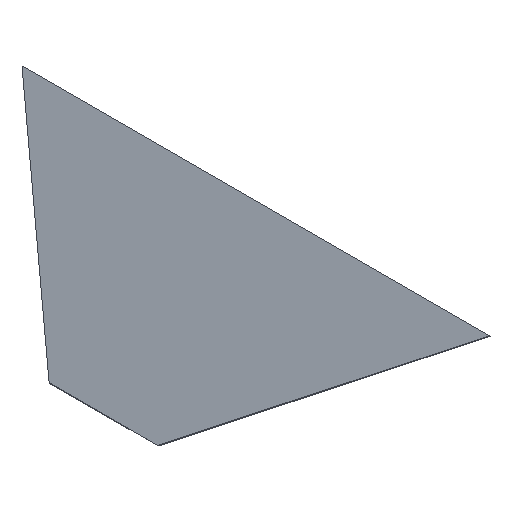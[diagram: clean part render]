
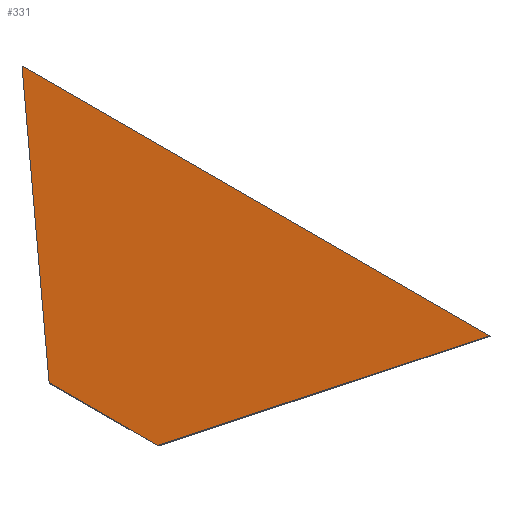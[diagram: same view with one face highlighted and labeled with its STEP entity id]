
A CAD part, isometric view. The second image highlights one B-rep face of the part: STEP entity #331.
In plain terms, the highlighted planar face has unit normal (-0.58, 0, 0.815).
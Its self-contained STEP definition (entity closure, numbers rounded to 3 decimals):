
#22 = VERTEX_POINT('',#23);
#23 = CARTESIAN_POINT('',(600.,-400.,1600.));
#32 = PLANE('',#33);
#33 = AXIS2_PLACEMENT_3D('',#34,#35,#36);
#34 = CARTESIAN_POINT('',(600.,-400.,1600.));
#35 = DIRECTION('',(0.815,-0.,0.58));
#36 = DIRECTION('',(0.,1.,0.));
#44 = PLANE('',#45);
#45 = AXIS2_PLACEMENT_3D('',#46,#47,#48);
#46 = CARTESIAN_POINT('',(1725.,-1725.,2400.));
#47 = DIRECTION('',(0.564,0.721,0.401));
#48 = DIRECTION('',(-0.588,0.692,-0.418));
#85 = VERTEX_POINT('',#86);
#86 = CARTESIAN_POINT('',(600.,400.,1600.));
#100 = PLANE('',#101);
#101 = AXIS2_PLACEMENT_3D('',#102,#103,#104);
#102 = CARTESIAN_POINT('',(600.,400.,1600.));
#103 = DIRECTION('',(0.564,-0.721,0.401));
#104 = DIRECTION('',(0.588,0.692,0.418));
#112 = EDGE_CURVE('',#22,#85,#113,.T.);
#113 = SURFACE_CURVE('',#114,(#118,#125),.PCURVE_S1.);
#114 = LINE('',#115,#116);
#115 = CARTESIAN_POINT('',(600.,-400.,1600.));
#116 = VECTOR('',#117,1.);
#117 = DIRECTION('',(0.,1.,0.));
#118 = PCURVE('',#32,#119);
#119 = DEFINITIONAL_REPRESENTATION('',(#120),#124);
#120 = LINE('',#121,#122);
#121 = CARTESIAN_POINT('',(0.,0.));
#122 = VECTOR('',#123,1.);
#123 = DIRECTION('',(1.,0.));
#124 = ( GEOMETRIC_REPRESENTATION_CONTEXT(2) 
PARAMETRIC_REPRESENTATION_CONTEXT() REPRESENTATION_CONTEXT('2D SPACE',''
  ) );
#125 = PCURVE('',#126,#131);
#126 = PLANE('',#127);
#127 = AXIS2_PLACEMENT_3D('',#128,#129,#130);
#128 = CARTESIAN_POINT('',(1347.055,0.,
    2131.239));
#129 = DIRECTION('',(0.58,-0.,-0.815));
#130 = DIRECTION('',(-0.815,0.,-0.58));
#131 = DEFINITIONAL_REPRESENTATION('',(#132),#136);
#132 = LINE('',#133,#134);
#133 = CARTESIAN_POINT('',(916.682,-400.));
#134 = VECTOR('',#135,1.);
#135 = DIRECTION('',(0.,1.));
#136 = ( GEOMETRIC_REPRESENTATION_CONTEXT(2) 
PARAMETRIC_REPRESENTATION_CONTEXT() REPRESENTATION_CONTEXT('2D SPACE',''
  ) );
#166 = VERTEX_POINT('',#167);
#167 = CARTESIAN_POINT('',(1725.,1725.,2400.));
#181 = PLANE('',#182);
#182 = AXIS2_PLACEMENT_3D('',#183,#184,#185);
#183 = CARTESIAN_POINT('',(1725.,1725.,2400.));
#184 = DIRECTION('',(-0.815,-0.,-0.58));
#185 = DIRECTION('',(0.,-1.,0.));
#193 = EDGE_CURVE('',#85,#166,#194,.T.);
#194 = SURFACE_CURVE('',#195,(#199,#206),.PCURVE_S1.);
#195 = LINE('',#196,#197);
#196 = CARTESIAN_POINT('',(600.,400.,1600.));
#197 = VECTOR('',#198,1.);
#198 = DIRECTION('',(0.588,0.692,0.418));
#199 = PCURVE('',#100,#200);
#200 = DEFINITIONAL_REPRESENTATION('',(#201),#205);
#201 = LINE('',#202,#203);
#202 = CARTESIAN_POINT('',(0.,0.));
#203 = VECTOR('',#204,1.);
#204 = DIRECTION('',(1.,0.));
#205 = ( GEOMETRIC_REPRESENTATION_CONTEXT(2) 
PARAMETRIC_REPRESENTATION_CONTEXT() REPRESENTATION_CONTEXT('2D SPACE',''
  ) );
#206 = PCURVE('',#126,#207);
#207 = DEFINITIONAL_REPRESENTATION('',(#208),#212);
#208 = LINE('',#209,#210);
#209 = CARTESIAN_POINT('',(916.682,400.));
#210 = VECTOR('',#211,1.);
#211 = DIRECTION('',(-0.721,0.692));
#212 = ( GEOMETRIC_REPRESENTATION_CONTEXT(2) 
PARAMETRIC_REPRESENTATION_CONTEXT() REPRESENTATION_CONTEXT('2D SPACE',''
  ) );
#242 = VERTEX_POINT('',#243);
#243 = CARTESIAN_POINT('',(1725.,-1725.,2400.));
#264 = EDGE_CURVE('',#166,#242,#265,.T.);
#265 = SURFACE_CURVE('',#266,(#270,#277),.PCURVE_S1.);
#266 = LINE('',#267,#268);
#267 = CARTESIAN_POINT('',(1725.,1725.,2400.));
#268 = VECTOR('',#269,1.);
#269 = DIRECTION('',(0.,-1.,0.));
#270 = PCURVE('',#181,#271);
#271 = DEFINITIONAL_REPRESENTATION('',(#272),#276);
#272 = LINE('',#273,#274);
#273 = CARTESIAN_POINT('',(0.,0.));
#274 = VECTOR('',#275,1.);
#275 = DIRECTION('',(1.,0.));
#276 = ( GEOMETRIC_REPRESENTATION_CONTEXT(2) 
PARAMETRIC_REPRESENTATION_CONTEXT() REPRESENTATION_CONTEXT('2D SPACE',''
  ) );
#277 = PCURVE('',#126,#278);
#278 = DEFINITIONAL_REPRESENTATION('',(#279),#283);
#279 = LINE('',#280,#281);
#280 = CARTESIAN_POINT('',(-463.762,1725.));
#281 = VECTOR('',#282,1.);
#282 = DIRECTION('',(-0.,-1.));
#283 = ( GEOMETRIC_REPRESENTATION_CONTEXT(2) 
PARAMETRIC_REPRESENTATION_CONTEXT() REPRESENTATION_CONTEXT('2D SPACE',''
  ) );
#311 = EDGE_CURVE('',#242,#22,#312,.T.);
#312 = SURFACE_CURVE('',#313,(#317,#324),.PCURVE_S1.);
#313 = LINE('',#314,#315);
#314 = CARTESIAN_POINT('',(1725.,-1725.,2400.));
#315 = VECTOR('',#316,1.);
#316 = DIRECTION('',(-0.588,0.692,-0.418));
#317 = PCURVE('',#44,#318);
#318 = DEFINITIONAL_REPRESENTATION('',(#319),#323);
#319 = LINE('',#320,#321);
#320 = CARTESIAN_POINT('',(0.,0.));
#321 = VECTOR('',#322,1.);
#322 = DIRECTION('',(1.,0.));
#323 = ( GEOMETRIC_REPRESENTATION_CONTEXT(2) 
PARAMETRIC_REPRESENTATION_CONTEXT() REPRESENTATION_CONTEXT('2D SPACE',''
  ) );
#324 = PCURVE('',#126,#325);
#325 = DEFINITIONAL_REPRESENTATION('',(#326),#330);
#326 = LINE('',#327,#328);
#327 = CARTESIAN_POINT('',(-463.762,-1725.));
#328 = VECTOR('',#329,1.);
#329 = DIRECTION('',(0.721,0.692));
#330 = ( GEOMETRIC_REPRESENTATION_CONTEXT(2) 
PARAMETRIC_REPRESENTATION_CONTEXT() REPRESENTATION_CONTEXT('2D SPACE',''
  ) );
#331 = ADVANCED_FACE('',(#332),#126,.F.);
#332 = FACE_BOUND('',#333,.F.);
#333 = EDGE_LOOP('',(#334,#335,#336,#337));
#334 = ORIENTED_EDGE('',*,*,#112,.T.);
#335 = ORIENTED_EDGE('',*,*,#193,.T.);
#336 = ORIENTED_EDGE('',*,*,#264,.T.);
#337 = ORIENTED_EDGE('',*,*,#311,.T.);
